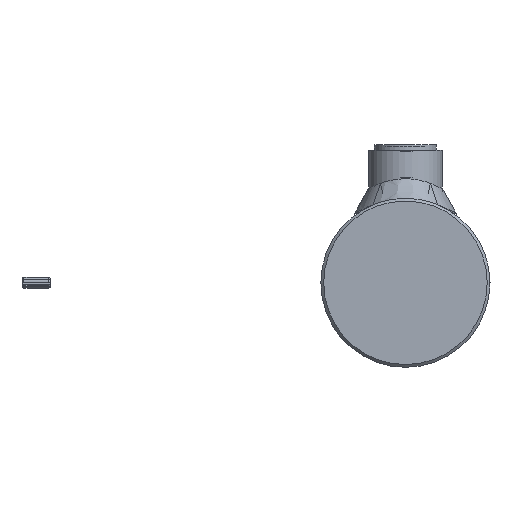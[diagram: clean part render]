
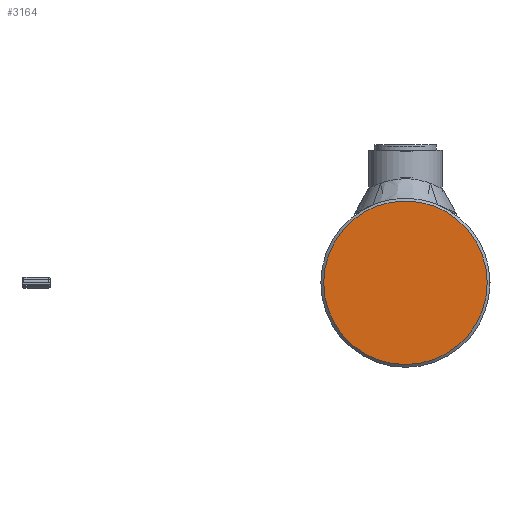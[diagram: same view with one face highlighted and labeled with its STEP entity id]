
A CAD part, left-side view. The second image highlights one B-rep face of the part: STEP entity #3164.
In plain terms, the highlighted planar face has unit normal (-1, 0, 0).
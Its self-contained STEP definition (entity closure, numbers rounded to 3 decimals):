
#3164 = ADVANCED_FACE( '', ( #7438 ), #7439, .T. );
#7438 = FACE_OUTER_BOUND( '', #9420, .T. );
#7439 = PLANE( '', #9421 );
#9420 = EDGE_LOOP( '', ( #10292 ) );
#9421 = AXIS2_PLACEMENT_3D( '', #10293, #10294, #10295 );
#10292 = ORIENTED_EDGE( '', *, *, #11573, .T. );
#10293 = CARTESIAN_POINT( '', ( -10., 0., 0. ) );
#10294 = DIRECTION( '', ( -1., 0., 0. ) );
#10295 = DIRECTION( '', ( 0., -1., 0. ) );
#11573 = EDGE_CURVE( '', #14141, #14141, #14142, .T. );
#14141 = VERTEX_POINT( '', #15033 );
#14142 = CIRCLE( '', #15034, 29. );
#15033 = CARTESIAN_POINT( '', ( -10., -29., 0. ) );
#15034 = AXIS2_PLACEMENT_3D( '', #15347, #15348, #15349 );
#15347 = CARTESIAN_POINT( '', ( -10., 0., 0. ) );
#15348 = DIRECTION( '', ( -1., 0., 0. ) );
#15349 = DIRECTION( '', ( 0., -1., 0. ) );
